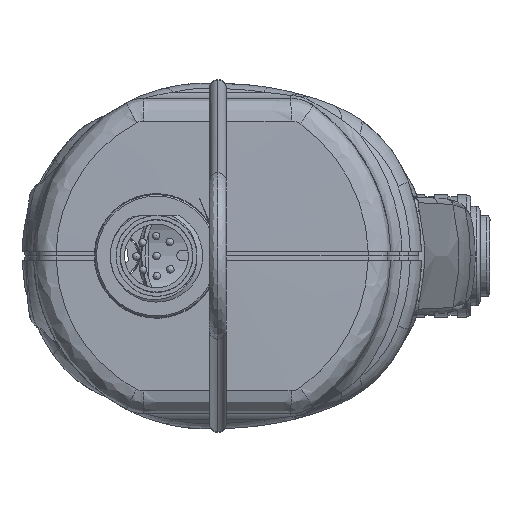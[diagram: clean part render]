
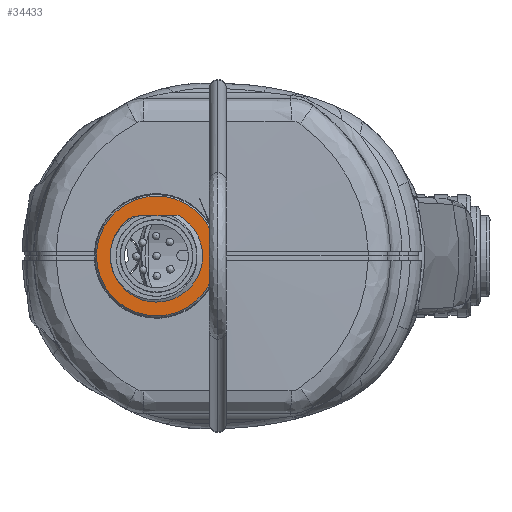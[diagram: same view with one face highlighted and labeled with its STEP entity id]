
A CAD part, front view. The second image highlights one B-rep face of the part: STEP entity #34433.
In plain terms, the highlighted planar face has unit normal (0, -1, 0).
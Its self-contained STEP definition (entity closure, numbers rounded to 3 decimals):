
#4195 = DIRECTION ( 'NONE',  ( 0., -1., 0. ) ) ;
#4258 = AXIS2_PLACEMENT_3D ( 'NONE', #75497, #86982, #53532 ) ;
#4870 = LINE ( 'NONE', #43962, #46098 ) ;
#6848 = DIRECTION ( 'NONE',  ( -1., 0., -0.02 ) ) ;
#10200 = EDGE_LOOP ( 'NONE', ( #69972, #14390, #15828, #71511 ) ) ;
#14210 = EDGE_CURVE ( 'NONE', #65716, #53084, #15697, .T. ) ;
#14390 = ORIENTED_EDGE ( 'NONE', *, *, #75126, .T. ) ;
#15389 = CIRCLE ( 'NONE', #60407, 7.8 ) ;
#15697 = CIRCLE ( 'NONE', #26991, 5.25 ) ;
#15828 = ORIENTED_EDGE ( 'NONE', *, *, #69652, .T. ) ;
#16552 = CARTESIAN_POINT ( 'NONE',  ( -37.56, -178.5, 0. ) ) ;
#17068 = DIRECTION ( 'NONE',  ( 1., 0., 0.02 ) ) ;
#21344 = DIRECTION ( 'NONE',  ( 1., 0., 0.02 ) ) ;
#24318 = CARTESIAN_POINT ( 'NONE',  ( -45.359, -178.5, -0.154 ) ) ;
#24796 = PLANE ( 'NONE',  #27477 ) ;
#24975 = EDGE_LOOP ( 'NONE', ( #65944, #59647 ) ) ;
#26991 = AXIS2_PLACEMENT_3D ( 'NONE', #34999, #61821, #21344 ) ;
#27477 = AXIS2_PLACEMENT_3D ( 'NONE', #59111, #4195, #64824 ) ;
#28916 = DIRECTION ( 'NONE',  ( 1., 0., 0.02 ) ) ;
#31989 = CIRCLE ( 'NONE', #81155, 5.25 ) ;
#33216 = CARTESIAN_POINT ( 'NONE',  ( -37.56, -178.5, 0. ) ) ;
#34433 = ADVANCED_FACE ( 'NONE', ( #50747, #68823 ), #24796, .T. ) ;
#34999 = CARTESIAN_POINT ( 'NONE',  ( -37.56, -178.5, 0. ) ) ;
#36536 = CIRCLE ( 'NONE', #4258, 7.8 ) ;
#43400 = DIRECTION ( 'NONE',  ( 0., 1., 0. ) ) ;
#43962 = CARTESIAN_POINT ( 'NONE',  ( -33.396, -178.5, 5.331 ) ) ;
#44185 = VERTEX_POINT ( 'NONE', #61236 ) ;
#46098 = VECTOR ( 'NONE', #51003, 1000. ) ;
#49452 = CARTESIAN_POINT ( 'NONE',  ( -37.841, -178.5, 5.243 ) ) ;
#50578 = VERTEX_POINT ( 'NONE', #52935 ) ;
#50747 = FACE_OUTER_BOUND ( 'NONE', #24975, .T. ) ;
#51003 = DIRECTION ( 'NONE',  ( -1., 0., -0.02 ) ) ;
#51892 = EDGE_CURVE ( 'NONE', #50578, #53084, #4870, .T. ) ;
#52368 = CARTESIAN_POINT ( 'NONE',  ( -32.311, -178.5, 0.104 ) ) ;
#52935 = CARTESIAN_POINT ( 'NONE',  ( -37.488, -178.5, 5.249 ) ) ;
#53084 = VERTEX_POINT ( 'NONE', #49452 ) ;
#53532 = DIRECTION ( 'NONE',  ( -1., 0., -0.02 ) ) ;
#55146 = EDGE_CURVE ( 'NONE', #44185, #70711, #36536, .T. ) ;
#57160 = DIRECTION ( 'NONE',  ( 0., 1., 0. ) ) ;
#57598 = CARTESIAN_POINT ( 'NONE',  ( -37.56, -178.5, 0. ) ) ;
#59111 = CARTESIAN_POINT ( 'NONE',  ( -37.56, -178.5, 0. ) ) ;
#59647 = ORIENTED_EDGE ( 'NONE', *, *, #80187, .T. ) ;
#60051 = DIRECTION ( 'NONE',  ( 0., -1., 0. ) ) ;
#60407 = AXIS2_PLACEMENT_3D ( 'NONE', #33216, #60051, #6848 ) ;
#61236 = CARTESIAN_POINT ( 'NONE',  ( -29.762, -178.5, 0.154 ) ) ;
#61821 = DIRECTION ( 'NONE',  ( 0., 1., 0. ) ) ;
#64824 = DIRECTION ( 'NONE',  ( -1., 0., -0.02 ) ) ;
#65546 = AXIS2_PLACEMENT_3D ( 'NONE', #16552, #43400, #28916 ) ;
#65716 = VERTEX_POINT ( 'NONE', #86140 ) ;
#65944 = ORIENTED_EDGE ( 'NONE', *, *, #55146, .T. ) ;
#68823 = FACE_BOUND ( 'NONE', #10200, .T. ) ;
#69212 = VERTEX_POINT ( 'NONE', #52368 ) ;
#69652 = EDGE_CURVE ( 'NONE', #69212, #65716, #31989, .T. ) ;
#69972 = ORIENTED_EDGE ( 'NONE', *, *, #51892, .F. ) ;
#70711 = VERTEX_POINT ( 'NONE', #24318 ) ;
#71511 = ORIENTED_EDGE ( 'NONE', *, *, #14210, .T. ) ;
#75126 = EDGE_CURVE ( 'NONE', #50578, #69212, #85232, .T. ) ;
#75497 = CARTESIAN_POINT ( 'NONE',  ( -37.56, -178.5, 0. ) ) ;
#80187 = EDGE_CURVE ( 'NONE', #70711, #44185, #15389, .T. ) ;
#81155 = AXIS2_PLACEMENT_3D ( 'NONE', #57598, #57160, #17068 ) ;
#85232 = CIRCLE ( 'NONE', #65546, 5.25 ) ;
#86140 = CARTESIAN_POINT ( 'NONE',  ( -42.809, -178.5, -0.104 ) ) ;
#86982 = DIRECTION ( 'NONE',  ( 0., -1., 0. ) ) ;
